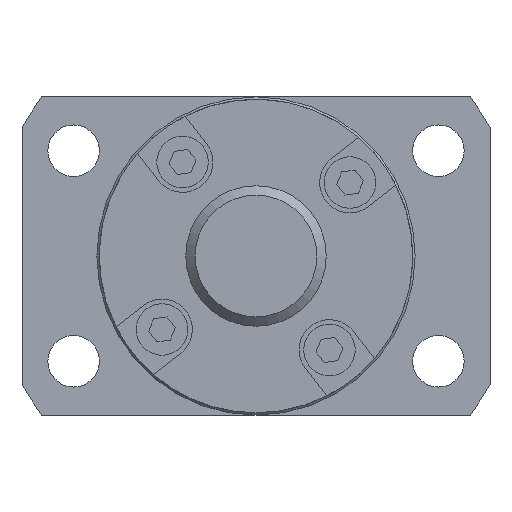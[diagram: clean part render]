
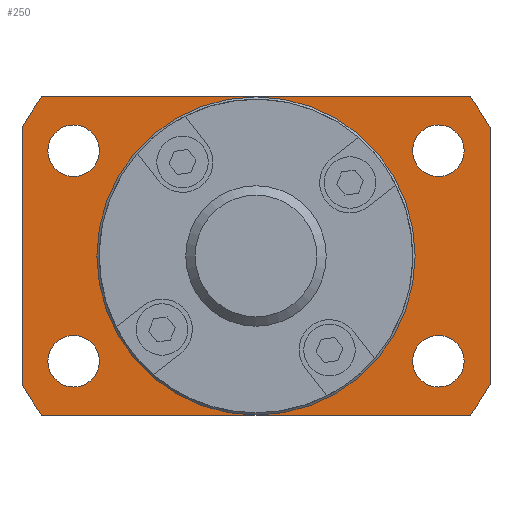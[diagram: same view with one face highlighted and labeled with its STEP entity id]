
A CAD part, left-side view. The second image highlights one B-rep face of the part: STEP entity #250.
In plain terms, the highlighted planar face has unit normal (-1, 0, 0).
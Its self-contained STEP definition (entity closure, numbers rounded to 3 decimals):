
#250 = ADVANCED_FACE( '', ( #487, #488, #489, #490, #491, #492 ), #493, .F. );
#487 = FACE_OUTER_BOUND( '', #780, .T. );
#488 = FACE_BOUND( '', #781, .T. );
#489 = FACE_BOUND( '', #782, .T. );
#490 = FACE_BOUND( '', #783, .T. );
#491 = FACE_BOUND( '', #784, .T. );
#492 = FACE_BOUND( '', #785, .T. );
#493 = PLANE( '', #786 );
#780 = EDGE_LOOP( '', ( #1391, #1392, #1393, #1394, #1395, #1396, #1397, #1398 ) );
#781 = EDGE_LOOP( '', ( #1399 ) );
#782 = EDGE_LOOP( '', ( #1400 ) );
#783 = EDGE_LOOP( '', ( #1401 ) );
#784 = EDGE_LOOP( '', ( #1402 ) );
#785 = EDGE_LOOP( '', ( #1403 ) );
#786 = AXIS2_PLACEMENT_3D( '', #1404, #1405, #1406 );
#1391 = ORIENTED_EDGE( '', *, *, #1807, .F. );
#1392 = ORIENTED_EDGE( '', *, *, #1808, .F. );
#1393 = ORIENTED_EDGE( '', *, *, #1809, .F. );
#1394 = ORIENTED_EDGE( '', *, *, #1810, .F. );
#1395 = ORIENTED_EDGE( '', *, *, #1811, .F. );
#1396 = ORIENTED_EDGE( '', *, *, #1812, .F. );
#1397 = ORIENTED_EDGE( '', *, *, #1813, .F. );
#1398 = ORIENTED_EDGE( '', *, *, #1814, .F. );
#1399 = ORIENTED_EDGE( '', *, *, #1794, .T. );
#1400 = ORIENTED_EDGE( '', *, *, #1798, .T. );
#1401 = ORIENTED_EDGE( '', *, *, #1802, .T. );
#1402 = ORIENTED_EDGE( '', *, *, #1806, .T. );
#1403 = ORIENTED_EDGE( '', *, *, #1815, .T. );
#1404 = CARTESIAN_POINT( '', ( 21., 16.75, 0. ) );
#1405 = DIRECTION( '', ( 1., 0., 0. ) );
#1406 = DIRECTION( '', ( 0., 0., -1. ) );
#1794 = EDGE_CURVE( '', #2120, #2120, #2121, .T. );
#1798 = EDGE_CURVE( '', #2128, #2128, #2129, .T. );
#1802 = EDGE_CURVE( '', #2136, #2136, #2137, .T. );
#1806 = EDGE_CURVE( '', #2144, #2144, #2145, .T. );
#1807 = EDGE_CURVE( '', #2146, #2147, #2148, .T. );
#1808 = EDGE_CURVE( '', #2149, #2146, #2150, .T. );
#1809 = EDGE_CURVE( '', #2151, #2149, #2152, .T. );
#1810 = EDGE_CURVE( '', #2153, #2151, #2154, .T. );
#1811 = EDGE_CURVE( '', #2155, #2153, #2156, .T. );
#1812 = EDGE_CURVE( '', #2157, #2155, #2158, .T. );
#1813 = EDGE_CURVE( '', #2159, #2157, #2160, .T. );
#1814 = EDGE_CURVE( '', #2147, #2159, #2161, .T. );
#1815 = EDGE_CURVE( '', #2162, #2162, #2163, .T. );
#2120 = VERTEX_POINT( '', #2633 );
#2121 = CIRCLE( '', #2634, 2.75 );
#2128 = VERTEX_POINT( '', #2641 );
#2129 = CIRCLE( '', #2642, 2.75 );
#2136 = VERTEX_POINT( '', #2649 );
#2137 = CIRCLE( '', #2650, 2.75 );
#2144 = VERTEX_POINT( '', #2657 );
#2145 = CIRCLE( '', #2658, 2.75 );
#2146 = VERTEX_POINT( '', #2659 );
#2147 = VERTEX_POINT( '', #2660 );
#2148 = CIRCLE( '', #2661, 28.5 );
#2149 = VERTEX_POINT( '', #2662 );
#2150 = LINE( '', #2663, #2664 );
#2151 = VERTEX_POINT( '', #2665 );
#2152 = CIRCLE( '', #2666, 28.5 );
#2153 = VERTEX_POINT( '', #2667 );
#2154 = LINE( '', #2668, #2669 );
#2155 = VERTEX_POINT( '', #2670 );
#2156 = CIRCLE( '', #2671, 28.5 );
#2157 = VERTEX_POINT( '', #2672 );
#2158 = LINE( '', #2673, #2674 );
#2159 = VERTEX_POINT( '', #2675 );
#2160 = CIRCLE( '', #2676, 28.5 );
#2161 = LINE( '', #2677, #2678 );
#2162 = VERTEX_POINT( '', #2679 );
#2163 = CIRCLE( '', #2680, 16.75 );
#2633 = CARTESIAN_POINT( '', ( 21., 19.486, -14. ) );
#2634 = AXIS2_PLACEMENT_3D( '', #3035, #3036, #3037 );
#2641 = CARTESIAN_POINT( '', ( 21., -19.486, 8.5 ) );
#2642 = AXIS2_PLACEMENT_3D( '', #3047, #3048, #3049 );
#2649 = CARTESIAN_POINT( '', ( 21., -19.486, -14. ) );
#2650 = AXIS2_PLACEMENT_3D( '', #3059, #3060, #3061 );
#2657 = CARTESIAN_POINT( '', ( 21., 19.486, 8.5 ) );
#2658 = AXIS2_PLACEMENT_3D( '', #3071, #3072, #3073 );
#2659 = CARTESIAN_POINT( '', ( 21., 25., 13.684 ) );
#2660 = CARTESIAN_POINT( '', ( 21., 22.875, 17. ) );
#2661 = AXIS2_PLACEMENT_3D( '', #3074, #3075, #3076 );
#2662 = CARTESIAN_POINT( '', ( 21., 25., -13.684 ) );
#2663 = CARTESIAN_POINT( '', ( 21., 25., -13.684 ) );
#2664 = VECTOR( '', #3077, 1000. );
#2665 = CARTESIAN_POINT( '', ( 21., 22.875, -17. ) );
#2666 = AXIS2_PLACEMENT_3D( '', #3078, #3079, #3080 );
#2667 = CARTESIAN_POINT( '', ( 21., -22.875, -17. ) );
#2668 = CARTESIAN_POINT( '', ( 21., -22.875, -17. ) );
#2669 = VECTOR( '', #3081, 1000. );
#2670 = CARTESIAN_POINT( '', ( 21., -25., -13.684 ) );
#2671 = AXIS2_PLACEMENT_3D( '', #3082, #3083, #3084 );
#2672 = CARTESIAN_POINT( '', ( 21., -25., 13.684 ) );
#2673 = CARTESIAN_POINT( '', ( 21., -25., 13.684 ) );
#2674 = VECTOR( '', #3085, 1000. );
#2675 = CARTESIAN_POINT( '', ( 21., -22.875, 17. ) );
#2676 = AXIS2_PLACEMENT_3D( '', #3086, #3087, #3088 );
#2677 = CARTESIAN_POINT( '', ( 21., 22.875, 17. ) );
#2678 = VECTOR( '', #3089, 1000. );
#2679 = CARTESIAN_POINT( '', ( 21., 0., -16.75 ) );
#2680 = AXIS2_PLACEMENT_3D( '', #3090, #3091, #3092 );
#3035 = CARTESIAN_POINT( '', ( 21., 19.486, -11.25 ) );
#3036 = DIRECTION( '', ( 1., 0., 0. ) );
#3037 = DIRECTION( '', ( 0., 0., -1. ) );
#3047 = CARTESIAN_POINT( '', ( 21., -19.486, 11.25 ) );
#3048 = DIRECTION( '', ( 1., 0., 0. ) );
#3049 = DIRECTION( '', ( 0., 0., -1. ) );
#3059 = CARTESIAN_POINT( '', ( 21., -19.486, -11.25 ) );
#3060 = DIRECTION( '', ( 1., 0., 0. ) );
#3061 = DIRECTION( '', ( 0., 0., -1. ) );
#3071 = CARTESIAN_POINT( '', ( 21., 19.486, 11.25 ) );
#3072 = DIRECTION( '', ( 1., 0., 0. ) );
#3073 = DIRECTION( '', ( 0., 0., -1. ) );
#3074 = CARTESIAN_POINT( '', ( 21., 0., 0. ) );
#3075 = DIRECTION( '', ( 1., 0., 0. ) );
#3076 = DIRECTION( '', ( 0., 0., -1. ) );
#3077 = DIRECTION( '', ( 0., 0., 1. ) );
#3078 = CARTESIAN_POINT( '', ( 21., 0., 0. ) );
#3079 = DIRECTION( '', ( 1., 0., 0. ) );
#3080 = DIRECTION( '', ( 0., 0., -1. ) );
#3081 = DIRECTION( '', ( 0., 1., 0. ) );
#3082 = CARTESIAN_POINT( '', ( 21., 0., 0. ) );
#3083 = DIRECTION( '', ( 1., 0., 0. ) );
#3084 = DIRECTION( '', ( 0., 0., -1. ) );
#3085 = DIRECTION( '', ( 0., 0., -1. ) );
#3086 = CARTESIAN_POINT( '', ( 21., 0., 0. ) );
#3087 = DIRECTION( '', ( 1., 0., 0. ) );
#3088 = DIRECTION( '', ( 0., 0., -1. ) );
#3089 = DIRECTION( '', ( 0., -1., 0. ) );
#3090 = CARTESIAN_POINT( '', ( 21., 0., 0. ) );
#3091 = DIRECTION( '', ( 1., 0., 0. ) );
#3092 = DIRECTION( '', ( 0., 0., -1. ) );
